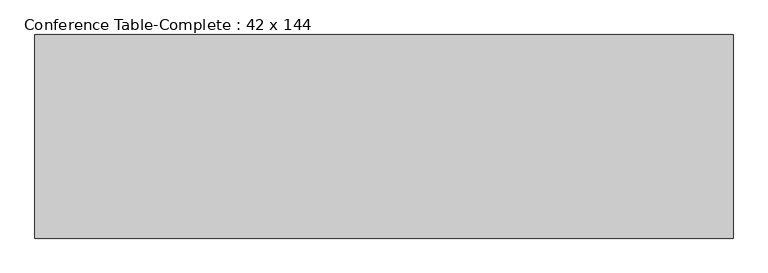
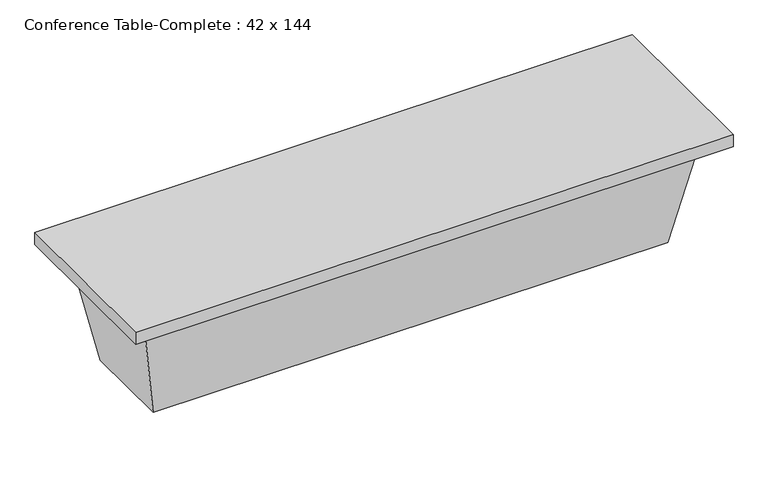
"""IFC4 building model written with IfcOpenShell, lengths in millimetres: furniture geometry, Conference Table-Complete : 42 x 144."""

import ifcopenshell
import ifcopenshell.guid

model = None  # the IFC model being written
_history = None  # IfcOwnerHistory: only IFC2X3 demands one
_inside = {}  # id of a spatial element -> (the spatial element, [elements in it])
_under = {}  # id of a project, library or spatial element -> (it, [spatial elements below it])
_declared = {}  # id of a project -> (the project, [libraries it declares])
_typed = {}  # id of a type object -> (the type object, [elements of that type])
_made_of = {}  # id of a material, layer set ... -> (it, [elements and type objects made of it])


def new_model(schema):
    """Start an empty IFC model of exactly this schema.

    Asked for "IFC4X3", IfcOpenShell would pick the latest addendum, in which some entities
    have other attributes; the version numbers below select the first issue.
    IFC2X3 requires an IfcOwnerHistory on every rooted entity: one is made here for all.
    """
    global model, _history
    if schema == "IFC4X3":
        model = ifcopenshell.file(schema_version=(4, 3, 0, 0))
    else:
        model = ifcopenshell.file(schema=schema)
    _inside.clear()
    _under.clear()
    _declared.clear()
    _typed.clear()
    _made_of.clear()
    _history = None
    if model.schema == "IFC2X3":
        org = make("IfcOrganization", Name="unknown")
        user = make(
            "IfcPersonAndOrganization",
            ThePerson=make("IfcPerson", FamilyName="unknown"),
            TheOrganization=org,
        )
        app = make(
            "IfcApplication",
            ApplicationDeveloper=org,
            Version="unknown",
            ApplicationFullName="unknown",
            ApplicationIdentifier="unknown",
        )
        _history = make(
            "IfcOwnerHistory",
            OwningUser=user,
            OwningApplication=app,
            ChangeAction="ADDED",
            CreationDate=0,
        )
    return model


def make(cls, **values):
    """One entity of the class cls with the attributes given. An attribute that is None is left unset."""
    return model.create_entity(
        cls, **{name: value for name, value in values.items() if value is not None}
    )


def rooted(cls, **values):
    """An entity with a GlobalId (a new one), such as an element, a storey or a relation."""
    return make(cls, GlobalId=ifcopenshell.guid.new(), OwnerHistory=_history, **values)


def si_unit(unit_type, name, prefix=None):
    """IfcSIUnit, for example si_unit("LENGTHUNIT", "METRE", prefix="MILLI")."""
    return make("IfcSIUnit", UnitType=unit_type, Prefix=prefix, Name=name)


def assignment(units):
    """IfcUnitAssignment: the units of a project."""
    return None if units is None else make("IfcUnitAssignment", Units=units)


def point(xyz):
    """IfcCartesianPoint."""
    return None if xyz is None else make("IfcCartesianPoint", Coordinates=xyz)


def direction(xyz):
    """IfcDirection."""
    return None if xyz is None else make("IfcDirection", DirectionRatios=xyz)


def frame(location, z_axis=None, x_axis=None):
    """IfcAxis2Placement3D, a coordinate frame: its origin and axes. An axis left out is left unset."""
    return make(
        "IfcAxis2Placement3D",
        Location=point(location),
        Axis=direction(z_axis),
        RefDirection=direction(x_axis),
    )


def origin():
    """The frame at (0, 0, 0) with its axes left unset."""
    return frame((0.0, 0.0, 0.0))


def place(relative_to, where):
    """IfcLocalPlacement: puts the frame where relative to a parent placement (None: the world)."""
    return make(
        "IfcLocalPlacement", PlacementRelTo=relative_to, RelativePlacement=where
    )


def context(
    kind, dimensions, precision=None, world=None, true_north=None, identifier=None
):
    """IfcGeometricRepresentationContext, for example the 3D "Model" context."""
    return make(
        "IfcGeometricRepresentationContext",
        ContextIdentifier=identifier,
        ContextType=kind,
        CoordinateSpaceDimension=dimensions,
        Precision=precision,
        WorldCoordinateSystem=world,
        TrueNorth=true_north,
    )


def project(units=None, contexts=None):
    """IfcProject with its units and contexts."""
    return rooted(
        "IfcProject",
        Name="project",
        RepresentationContexts=contexts,
        UnitsInContext=assignment(units),
    )


def spatial(cls, under=None, at=None, **own):
    """A site, building, storey or space (cls), placed at a placement, below another one or the project."""
    s = rooted(cls, ObjectPlacement=at, **own)
    if under is not None:
        _under.setdefault(under.id(), (under, []))[1].append(s)
    return s


def polyline(points):
    """IfcPolyline through the points."""
    return make("IfcPolyline", Points=[point(p) for p in points])


def outline(outer, holes=None, kind="AREA"):
    """IfcArbitraryClosedProfileDef: a profile drawn as a closed curve; with holes, ...WithVoids."""
    if holes is None:
        return make("IfcArbitraryClosedProfileDef", ProfileType=kind, OuterCurve=outer)
    return make(
        "IfcArbitraryProfileDefWithVoids",
        ProfileType=kind,
        OuterCurve=outer,
        InnerCurves=holes,
    )


def extrude(swept, where, along, depth):
    """IfcExtrudedAreaSolid: the profile swept, set in the frame where, extruded along a direction by depth."""
    return make(
        "IfcExtrudedAreaSolid",
        SweptArea=swept,
        Position=where,
        ExtrudedDirection=direction(along),
        Depth=depth,
    )


def faces_of(points, faces, orient=None, outer=None):
    """IfcFace entities. A face is a list of loops; a loop is a list of indices into points, from 0.

    orient and outer hold one flag for each loop. By default every Orientation is true, the
    first loop of a face is its IfcFaceOuterBound and the others are IfcFaceBound.
    """
    made = []
    for i, loops in enumerate(faces):
        bounds = []
        for j, loop in enumerate(loops):
            is_outer = j == 0 if outer is None else outer[i][j]
            bounds.append(
                make(
                    "IfcFaceOuterBound" if is_outer else "IfcFaceBound",
                    Bound=make("IfcPolyLoop", Polygon=[points[k] for k in loop]),
                    Orientation=True if orient is None else orient[i][j],
                )
            )
        made.append(make("IfcFace", Bounds=bounds))
    return made


def faceted_brep(points, faces, orient=None, outer=None, voids=None):
    """IfcFacetedBrep: a solid bounded by flat faces; with voids (closed shells), ...WithVoids."""
    shared = [point(p) for p in points]
    hull = make("IfcClosedShell", CfsFaces=faces_of(shared, faces, orient, outer))
    if voids is None:
        return make("IfcFacetedBrep", Outer=hull)
    return make(
        "IfcFacetedBrepWithVoids",
        Outer=hull,
        Voids=[
            make(cls, CfsFaces=faces_of(shared, fs, o, b)) for cls, fs, o, b in voids
        ],
    )


def shape(context_of_items, identifier, shape_type, items):
    """IfcShapeRepresentation: the items that make up one representation, for example the "Body"."""
    return make(
        "IfcShapeRepresentation",
        ContextOfItems=context_of_items,
        RepresentationIdentifier=identifier,
        RepresentationType=shape_type,
        Items=items,
    )


def source(mapping_origin, context_of_items, identifier, shape_type, items):
    """IfcRepresentationMap: a shape defined once, which mapped items show again and again."""
    return make(
        "IfcRepresentationMap",
        MappingOrigin=mapping_origin,
        MappedRepresentation=shape(context_of_items, identifier, shape_type, items),
    )


def transform(
    local_origin,
    x_axis=None,
    y_axis=None,
    z_axis=None,
    scale=None,
    scale2=None,
    scale3=None,
    uniform=True,
):
    """IfcCartesianTransformationOperator3D, or its non-uniform kind. x_axis, y_axis, z_axis: its Axis1, 2, 3."""
    if uniform:
        return make(
            "IfcCartesianTransformationOperator3D",
            Axis1=direction(x_axis),
            Axis2=direction(y_axis),
            LocalOrigin=point(local_origin),
            Scale=scale,
            Axis3=direction(z_axis),
        )
    return make(
        "IfcCartesianTransformationOperator3DnonUniform",
        Axis1=direction(x_axis),
        Axis2=direction(y_axis),
        LocalOrigin=point(local_origin),
        Scale=scale,
        Axis3=direction(z_axis),
        Scale2=scale2,
        Scale3=scale3,
    )


def mapped(mapping_source, mapping_target):
    """IfcMappedItem: shows the shape of a source again, moved by a transform."""
    return make(
        "IfcMappedItem", MappingSource=mapping_source, MappingTarget=mapping_target
    )


def made_of(thing, what):
    """Note that an element or type object is made of a material, layer set ...; save() writes the relation."""
    if what is not None:
        _made_of.setdefault(what.id(), (what, []))[1].append(thing)
    return thing


def element(
    cls,
    number,
    at=None,
    inside=None,
    cuts=None,
    type_object=None,
    material=None,
    context=None,
    identifier="Body",
    shape_type=None,
    held_by="IfcProductDefinitionShape",
    body=None,
    shapes=None,
    **own,
):
    """One element of the class cls, such as IfcWall. Its Tag is "e" and its number.

    at: its placement. inside: the storey or other place that contains it. cuts: it is an
    opening in that element (IfcRelVoidsElement). A single representation is given by context,
    identifier, shape_type and body (its items); several are given by shapes. held_by: the class
    of the entity that holds the representations. save() writes the other relations.
    """
    e = rooted(cls, Tag="e%d" % number, ObjectPlacement=at, **own)
    if body is not None:
        shapes = [shape(context, identifier, shape_type, body)]
    if shapes is not None:
        e.Representation = make(held_by, Representations=shapes)
    if inside is not None:
        _inside.setdefault(inside.id(), (inside, []))[1].append(e)
    if cuts is not None:
        rooted(
            "IfcRelVoidsElement", RelatingBuildingElement=cuts, RelatedOpeningElement=e
        )
    if type_object is not None:
        _typed.setdefault(type_object.id(), (type_object, []))[1].append(e)
    return made_of(e, material)


def aggregate(whole, parts):
    """IfcRelAggregates: a whole, such as a stair, and the parts it consists of."""
    return rooted("IfcRelAggregates", RelatingObject=whole, RelatedObjects=parts)


def save(model, path):
    """Write the relations noted so far, then the file.

    IfcRelAggregates (storeys below a building ...), IfcRelContainedInSpatialStructure (elements
    in a storey), IfcRelDefinesByType, IfcRelAssociatesMaterial and IfcRelDeclares: one each for
    every whole, place, type object, material and project.
    """
    for whole, parts in _under.values():
        aggregate(whole, parts)
    for where, things in _inside.values():
        rooted(
            "IfcRelContainedInSpatialStructure",
            RelatedElements=things,
            RelatingStructure=where,
        )
    for kind, things in _typed.values():
        rooted("IfcRelDefinesByType", RelatedObjects=things, RelatingType=kind)
    for what, things in _made_of.values():
        rooted("IfcRelAssociatesMaterial", RelatedObjects=things, RelatingMaterial=what)
    for by, libraries in _declared.values():
        rooted("IfcRelDeclares", RelatingContext=by, RelatedDefinitions=libraries)
    model.write(path)


def conference_table_complete_42_x_144_00e9c4b6(model_context):
    return source(origin(), model_context, "Body", "SolidModel", [
        faceted_brep([(1701.8, -406.4, 685.8), (1701.8, 406.4, 685.8), (-1701.8, 406.4, 685.8), (-1701.8, -406.4, 685.8), (1574.8, -279.4, 0.0), (-1574.8, -279.4, 0.0), (-1574.8, 279.4, 0.0), (1574.8, 279.4, 0.0)], [[[0, 1, 2, 3]], [[4, 5, 6, 7]], [[4, 7, 1, 0]], [[7, 6, 2, 1]], [[6, 5, 3, 2]], [[5, 4, 0, 3]]]),
        extrude(outline(polyline([(1828.8, 533.4), (1828.8, -533.4), (-1828.8, -533.4), (-1828.8, 533.4), (1828.8, 533.4)])), frame((0.0, 0.0, 685.8), z_axis=(0.0, 0.0, 1.0), x_axis=(1.0, 0.0, 0.0)), (0.0, 0.0, 1.0), 76.2),
    ])


if __name__ == "__main__":
    model = new_model("IFC4")
    model_context = context("Model", 3, world=origin())
    ifc_project = project(units=[si_unit("LENGTHUNIT", "METRE", prefix="MILLI")], contexts=[model_context])
    site = spatial("IfcSite", under=ifc_project)
    building = spatial("IfcBuilding", under=site)
    placement = place(None, origin())
    conference_table_complete_42_x_144_shape = conference_table_complete_42_x_144_00e9c4b6(model_context)
    element("IfcFurniture", 1, ObjectType="Conference Table-Complete : 42 x 144", at=placement, inside=building, context=model_context, shape_type="MappedRepresentation", body=[
        mapped(conference_table_complete_42_x_144_shape, transform((0.0, 0.0, 0.0), x_axis=(1.0, 0.0, 0.0), y_axis=(0.0, 1.0, 0.0), z_axis=(0.0, 0.0, 1.0))),
    ])
    save(model, "model.ifc")
